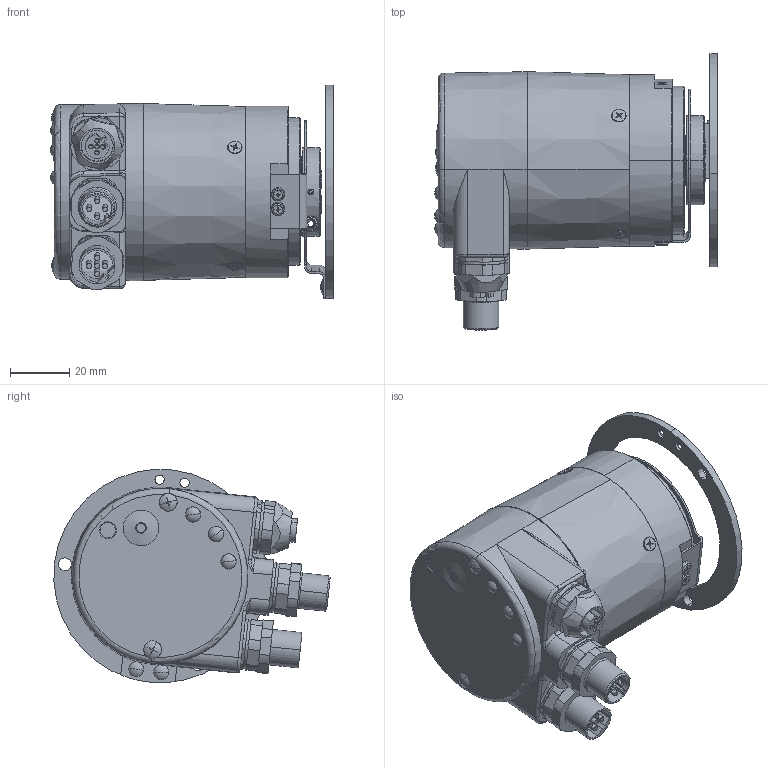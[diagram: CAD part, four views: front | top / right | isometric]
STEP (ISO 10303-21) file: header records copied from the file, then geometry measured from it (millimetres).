
FILE_DESCRIPTION (( 'STEP AP214' ), '1' );
FILE_NAME ('5888.3432.XXXX.STEP', '2008-06-18T06:25:41', ( 'admin' ), ( 'Fritz Kübler GmbH' ), 'SwSTEP 2.0', 'SolidWorks 2007', '' );
FILE_SCHEMA (( 'AUTOMOTIVE_DESIGN' ));
Length unit declared in the file: millimetre
Products named in the file (1): 5888.3432.XXXX
Bounding box: 95.4 x 93.21 x 71.93 mm (x, y, z)
Surface area: 38615.3 mm2 (no closed solid volume)
Topology: 0 solids, 36 shells, 591 faces, 1635 edges, 1076 vertices
Faces by surface type: plane 258, cylinder 221, cone 71, torus 18, sphere 15, bspline 8
Entity records: 26234 total; most frequent: CARTESIAN_POINT 4398, DIRECTION 3387, ORIENTED_EDGE 2920, EDGE_CURVE 1630, AXIS2_PLACEMENT_3D 1261, VERTEX_POINT 1076, VECTOR 865, LINE 865
